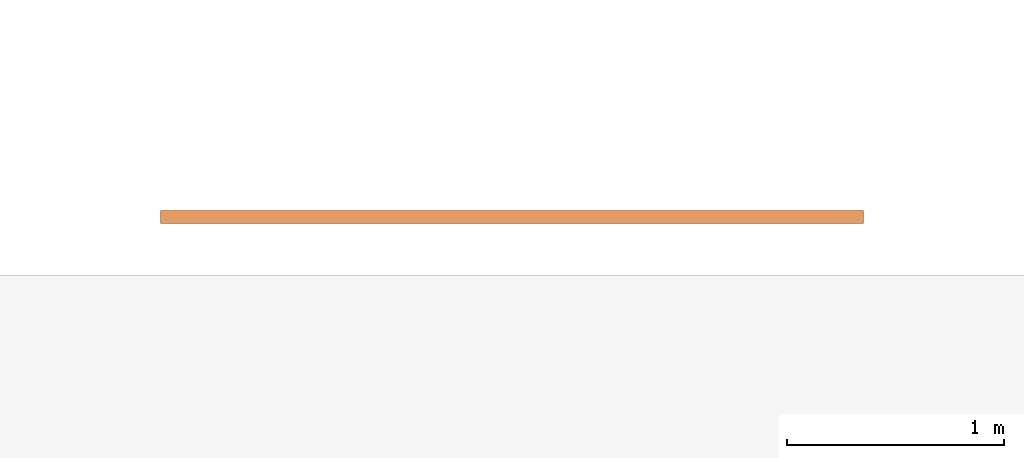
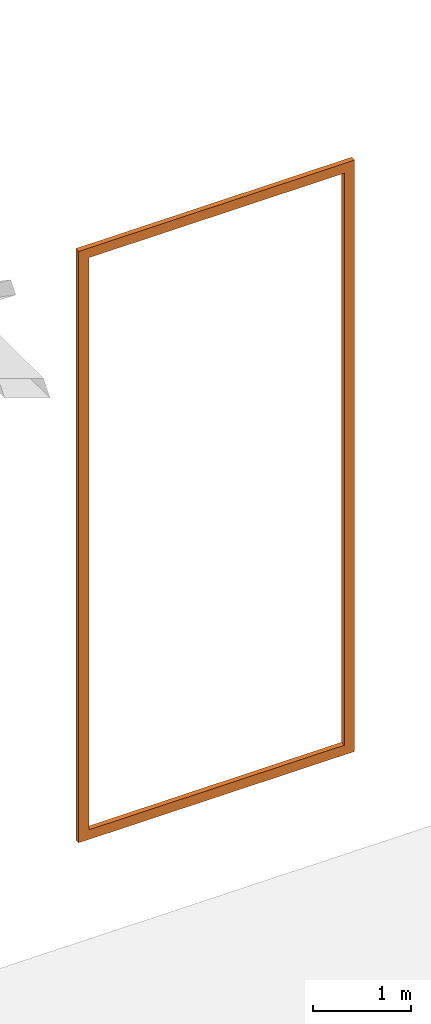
# One storey, part 11 of 14: 1 proxy.
"""IFC2X3 building model written with IfcOpenShell, lengths in millimetres."""

from ifc_helpers import new_model, entity, si_unit, converted_unit, derived_unit, direction, frame, origin, place, context, subcontext, project, spatial, polyline, outline, extrude, source, transform, mapped, material, type_object, type_shapes, element, save


model = new_model("IFC2X3")

# Units and contexts
model_context = context("Model", 3, precision=0.01, world=origin(), true_north=direction((6.12303176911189e-17, 1.0)))
body_context = subcontext(model_context, "Body", "Model", "MODEL_VIEW")
ifc_project = project(units=[si_unit("LENGTHUNIT", "METRE", prefix="MILLI"), si_unit("AREAUNIT", "SQUARE_METRE"), si_unit("VOLUMEUNIT", "CUBIC_METRE"), converted_unit("PLANEANGLEUNIT", "DEGREE", entity("IfcRatioMeasure", 0.0174532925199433), si_unit("PLANEANGLEUNIT", "RADIAN"), dimensions=[0, 0, 0, 0, 0, 0, 0]), si_unit("MASSUNIT", "GRAM", prefix="KILO"), derived_unit("MASSDENSITYUNIT", [(si_unit("MASSUNIT", "GRAM", prefix="KILO"), 1), (si_unit("LENGTHUNIT", "METRE"), -3)]), si_unit("TIMEUNIT", "SECOND"), si_unit("FREQUENCYUNIT", "HERTZ"), si_unit("THERMODYNAMICTEMPERATUREUNIT", "DEGREE_CELSIUS"), derived_unit("THERMALTRANSMITTANCEUNIT", [(si_unit("MASSUNIT", "GRAM", prefix="KILO"), 1), (si_unit("THERMODYNAMICTEMPERATUREUNIT", "KELVIN"), -1), (si_unit("TIMEUNIT", "SECOND"), -3)]), derived_unit("VOLUMETRICFLOWRATEUNIT", [(si_unit("LENGTHUNIT", "METRE"), 3), (si_unit("TIMEUNIT", "SECOND"), -1)]), si_unit("ELECTRICCURRENTUNIT", "AMPERE"), si_unit("ELECTRICVOLTAGEUNIT", "VOLT"), si_unit("POWERUNIT", "WATT"), si_unit("FORCEUNIT", "NEWTON", prefix="KILO"), si_unit("ILLUMINANCEUNIT", "LUX"), si_unit("LUMINOUSFLUXUNIT", "LUMEN"), si_unit("LUMINOUSINTENSITYUNIT", "CANDELA"), derived_unit("USERDEFINED", [(si_unit("MASSUNIT", "GRAM", prefix="KILO"), -1), (si_unit("LENGTHUNIT", "METRE"), -2), (si_unit("TIMEUNIT", "SECOND"), 3), (si_unit("LUMINOUSFLUXUNIT", "LUMEN"), 1)]), derived_unit("LINEARVELOCITYUNIT", [(si_unit("LENGTHUNIT", "METRE"), 1), (si_unit("TIMEUNIT", "SECOND"), -1)]), si_unit("PRESSUREUNIT", "PASCAL"), derived_unit("USERDEFINED", [(si_unit("LENGTHUNIT", "METRE"), -2), (si_unit("MASSUNIT", "GRAM", prefix="KILO"), 1), (si_unit("TIMEUNIT", "SECOND"), -2)])], contexts=[model_context])

# Site, building, storey
site_placement = place(None, origin())
site = spatial("IfcSite", under=ifc_project, at=site_placement, Name="表面", CompositionType="ELEMENT")
building_placement = place(site_placement, origin())
building = spatial("IfcBuilding", under=site, at=building_placement, CompositionType="ELEMENT")
storey_placement = place(building_placement, origin())
storey = spatial("IfcBuildingStorey", under=building, at=storey_placement, Name="±0.000", CompositionType="ELEMENT", Elevation=0.0)

# Proxy
ifc_material = material(Name="砖石建筑 - 瓷砖")
building_element_proxy_type = type_object("IfcBuildingElementProxyType", Name="3mX7100", PredefinedType="NOTDEFINED", material=ifc_material)
shared_shape = source(origin(), body_context, "Body", "SweptSolid", [
    extrude(outline(polyline([(-1620.0, -3670.0), (1620.0, -3670.0), (1620.0, 3670.0), (-1620.0, 3670.0), (-1620.0, -3670.0)]), holes=[polyline([(-1500.0, -3550.0), (-1500.0, 3550.0), (1500.0, 3550.0), (1500.0, -3550.0), (-1500.0, -3550.0)])]), frame((125.0, -180.0, 4029.66314124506), z_axis=(0.0, 1.0, 0.0), x_axis=(1.0, 0.0, 0.0)), (0.0, 0.0, 1.0), 60.0),
])
type_shapes(building_element_proxy_type, [shared_shape])
proxy_placement = place(storey_placement, frame((-14403.798781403, 15729.6974073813, 680.336858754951), z_axis=(0.0, 0.0, 1.0), x_axis=(-1.0, 0.0, 0.0)))
element("IfcBuildingElementProxy", 1, at=proxy_placement, inside=storey, type_object=building_element_proxy_type, material=ifc_material, Name="基于墙的墙面装饰:3mX7100", ObjectType="3mX7100", context=body_context, shape_type="MappedRepresentation", body=[
    mapped(shared_shape, transform((0.0, 0.0, 0.0), scale=1.0)),
])

save(model, "model.ifc")
